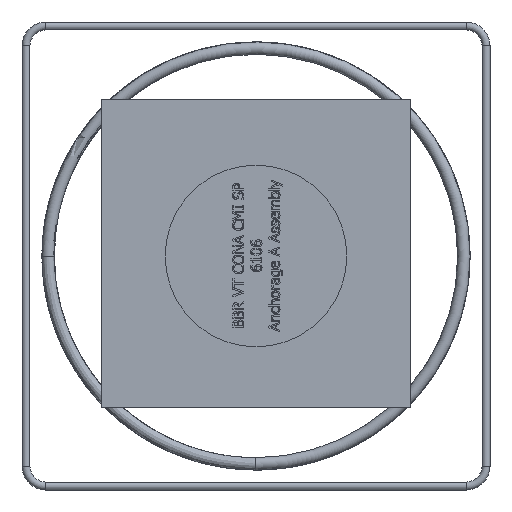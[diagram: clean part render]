
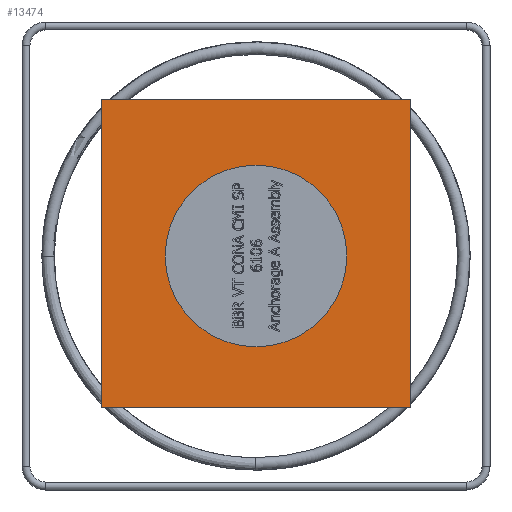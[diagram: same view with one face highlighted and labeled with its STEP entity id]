
A CAD part, left-side view. The second image highlights one B-rep face of the part: STEP entity #13474.
In plain terms, the highlighted planar face has unit normal (-1, 0, 0).
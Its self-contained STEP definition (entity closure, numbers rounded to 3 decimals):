
#1966=LINE('',#31725,#3023);
#1970=LINE('',#31732,#3027);
#1973=LINE('',#31737,#3030);
#1976=LINE('',#31741,#3033);
#3023=VECTOR('',#16082,620.);
#3027=VECTOR('',#16088,620.);
#3030=VECTOR('',#16093,620.);
#3033=VECTOR('',#16098,620.);
#3347=PLANE('',#14007);
#3558=FACE_BOUND('',#5164,.T.);
#4292=FACE_OUTER_BOUND('',#5163,.T.);
#5163=EDGE_LOOP('',(#11882,#11883,#11884,#11885));
#5164=EDGE_LOOP('',(#11886));
#5312=CIRCLE('',#13963,182.5);
#6532=VERTEX_POINT('',#23711);
#6560=VERTEX_POINT('',#31723);
#6561=VERTEX_POINT('',#31724);
#6563=VERTEX_POINT('',#31731);
#6564=VERTEX_POINT('',#31736);
#8311=EDGE_CURVE('',#6532,#6532,#5312,.T.);
#8341=EDGE_CURVE('',#6560,#6561,#1966,.T.);
#8345=EDGE_CURVE('',#6561,#6563,#1970,.T.);
#8348=EDGE_CURVE('',#6563,#6564,#1973,.T.);
#8351=EDGE_CURVE('',#6564,#6560,#1976,.T.);
#11882=ORIENTED_EDGE('',*,*,#8351,.T.);
#11883=ORIENTED_EDGE('',*,*,#8341,.T.);
#11884=ORIENTED_EDGE('',*,*,#8345,.T.);
#11885=ORIENTED_EDGE('',*,*,#8348,.T.);
#11886=ORIENTED_EDGE('',*,*,#8311,.T.);
#13474=ADVANCED_FACE('',(#4292,#3558),#3347,.T.);
#13963=AXIS2_PLACEMENT_3D('',#23712,#15994,#15995);
#14007=AXIS2_PLACEMENT_3D('',#31743,#16100,#16101);
#15994=DIRECTION('center_axis',(1.,0.,0.));
#15995=DIRECTION('ref_axis',(0.,0.,
-1.));
#16082=DIRECTION('',(0.,0.,-1.));
#16088=DIRECTION('',(0.,-1.,0.));
#16093=DIRECTION('',(0.,0.,1.));
#16098=DIRECTION('',(0.,1.,0.));
#16100=DIRECTION('center_axis',(-1.,0.,0.));
#16101=DIRECTION('ref_axis',(0.,0.,-1.));
#23711=CARTESIAN_POINT('',(-112.151,0.,-182.5));
#23712=CARTESIAN_POINT('Origin',(-112.151,0.,
0.));
#31723=CARTESIAN_POINT('',(-112.151,310.,315.253));
#31724=CARTESIAN_POINT('',(-112.151,310.,-304.747));
#31725=CARTESIAN_POINT('',(-112.151,310.,315.253));
#31731=CARTESIAN_POINT('',(-112.151,-310.,-304.747));
#31732=CARTESIAN_POINT('',(-112.151,310.,-304.747));
#31736=CARTESIAN_POINT('',(-112.151,-310.,315.253));
#31737=CARTESIAN_POINT('',(-112.151,-310.,-304.747));
#31741=CARTESIAN_POINT('',(-112.151,-310.,315.253));
#31743=CARTESIAN_POINT('Origin',(-112.151,0.,
5.253));
